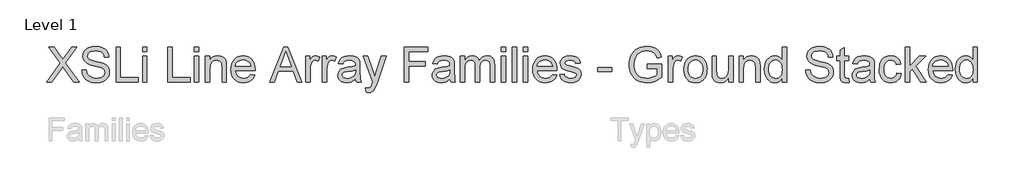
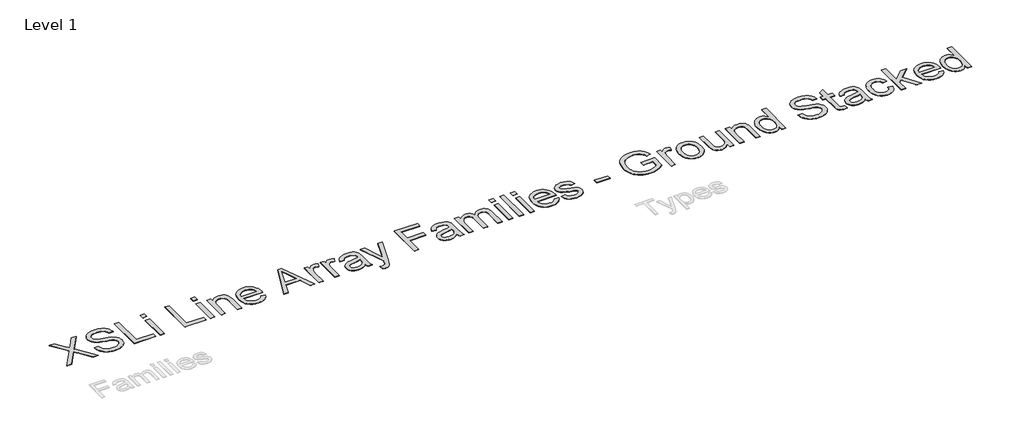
# One storey, part 39 of 52: 1 proxy.
"""IFC4 building model written with IfcOpenShell, lengths in millimetres."""

from ifc_helpers import new_model, si_unit, origin, origin_with_axes, place, context, project, spatial, polyline, outline, extrude, element, save

model = new_model("IFC4")

# Units and contexts
model_context = context("Model", 3, world=origin())
ifc_project = project(units=[si_unit("LENGTHUNIT", "METRE", prefix="MILLI")], contexts=[model_context])

# Site, building, storey
site = spatial("IfcSite", under=ifc_project)
building = spatial("IfcBuilding", under=site)
storey = spatial("IfcBuildingStorey", under=building, Name="Level 1", Elevation=0.0)

# Proxy
placement = place(None, origin())
element("IfcBuildingElementProxy", 1, Name="600mm Arial", ObjectType="600mm Arial", at=placement, inside=storey, context=model_context, shape_type="SweptSolid", body=[
    extrude(outline(polyline([(5900.4306241, -38567.5695164), (6132.7848923, -38239.1244711), (5938.1017404, -37964.8316555), (6028.4535584, -37964.8316555), (6138.082393, -38119.1949407), (6164.2388029, -38158.3007968), (6175.0177453, -38179.3804351), (6218.280668, -38118.1648711), (6326.7322801, -37964.8316555), (6418.4084733, -37964.8316555), (6223.7253215, -38240.0073879), (6456.0795896, -38567.5695164), (6365.7277716, -38567.5695164), (6210.923028, -38349.1947641), (6178.6965653, -38303.8717023), (6143.2327409, -38353.609348), (5992.1068173, -38567.5695164), (5900.4306241, -38567.5695164)])), origin_with_axes(), (0.0, 0.0, 1.0), 5.0),
    extrude(outline(polyline([(6503.168485, -38360.3783767), (6578.5107176, -38360.3783767), (6587.1559445, -38402.1881655), (6602.7909293, -38435.7941858), (6627.1815056, -38462.4656304), (6662.0935069, -38483.4716923), (6704.7678184, -38497.1017203), (6752.4453249, -38501.6450629), (6794.4206606, -38498.2053662), (6831.1720719, -38487.8862763), (6860.9521194, -38471.5523157), (6882.0133636, -38450.0680072), (6894.5397456, -38425.4015194), (6898.7152062, -38399.521021), (6895.5882093, -38374.3027103), (6886.2072184, -38352.505702), (6867.150931, -38333.9092672), (6834.9980447, -38318.2926765), (6725.2956337, -38289.5243045), (6653.2827331, -38270.4864112), (6607.2055133, -38252.368223), (6569.6999438, -38227.0211535), (6543.1204697, -38196.3030069), (6527.2831498, -38160.8759708), (6522.0040432, -38121.4022327), (6523.6365195, -38098.9660295), (6528.5339486, -38077.2747874), (6536.6963304, -38056.3285063), (6548.1236648, -38036.1271862), (6562.6871933, -38017.4939631), (6580.2581571, -38001.2519731), (6600.8365562, -37987.4012159), (6624.4223906, -37975.9416918), (6677.4341861, -37960.5458303), (6736.1113644, -37955.4138765), (6799.6813731, -37960.7849536), (6855.3051308, -37976.898185), (6879.6405248, -37988.9003351), (6900.9960746, -38003.4224768), (6919.3717803, -38020.4646103), (6934.7676418, -38040.0267353), (6947.0640974, -38061.538635), (6956.1415857, -38084.4300922), (6962.0001065, -38108.7011068), (6964.6396598, -38134.3516789), (6889.2974272, -38134.3516789), (6884.2574438, -38110.3105905), (6875.4650641, -38089.3964991), (6862.9202881, -38071.6094046), (6846.6231157, -38056.9493071), (6826.2700443, -38045.489783), (6801.5575713, -38037.3044086), (6772.4856966, -38032.3931839), (6739.0544203, -38030.7561091), (6704.5562862, -38032.3747898), (6675.0797414, -38037.2308322), (6650.6247857, -38045.3242361), (6631.1914193, -38056.6550015), (6616.384169, -38070.2758324), (6605.8075617, -38085.2394326), (6599.4615973, -38101.545802), (6597.3462758, -38119.1949407), (6598.8453949, -38134.3792701), (6603.3427523, -38148.1472537), (6610.838348, -38160.4988917), (6621.3321819, -38171.434184), (6637.8500835, -38181.7900622), (6663.8593405, -38192.2563049), (6744.3519211, -38213.5198843), (6827.4196756, -38233.7166058), (6877.6723561, -38251.3381534), (6920.622579, -38278.6717856), (6937.2278526, -38294.7390318), (6950.5865676, -38312.4065646), (6960.8550737, -38331.5824136), (6968.189721, -38352.1746083), (6974.0574388, -38397.6080347), (6972.3697802, -38421.175475), (6967.3068042, -38444.0531365), (6958.868511, -38466.2410194), (6947.0549004, -38487.7391235), (6932.0729061, -38507.7151158), (6914.1294618, -38525.3366634), (6893.2245675, -38540.6037662), (6869.358223, -38553.5164242), (6843.2248058, -38563.7849304), (6815.518693, -38571.1195777), (6755.3883809, -38576.9872955), (6716.8481434, -38575.4054029), (6681.5728586, -38570.6597252), (6649.5625265, -38562.7502623), (6620.8171471, -38551.6770142), (6595.1619764, -38537.4215869), (6572.4222706, -38519.9655863), (6552.5980296, -38499.3090122), (6535.6892534, -38475.4518648), (6522.0684225, -38449.1666963), (6512.1080175, -38421.2260587), (6505.8080383, -38391.6299522), (6503.168485, -38360.3783767)])), origin_with_axes(), (0.0, 0.0, 1.0), 5.0),
    extrude(outline(polyline([(7087.0707878, -38567.5695164), (7087.0707878, -37964.8316555), (7162.4130204, -37964.8316555), (7162.4130204, -38492.2272838), (7463.7819508, -38492.2272838), (7463.7819508, -38567.5695164), (7087.0707878, -38567.5695164)])), origin_with_axes(), (0.0, 0.0, 1.0), 5.0),
    extrude(outline(polyline([(7539.1241834, -38567.5695164), (7539.1241834, -38124.9338998), (7614.466416, -38124.9338998), (7614.466416, -38567.5695164), (7539.1241834, -38567.5695164)])), origin_with_axes(), (0.0, 0.0, 1.0), 5.0),
    extrude(outline(polyline([(7539.1241834, -38040.1738881), (7539.1241834, -37964.8316555), (7614.466416, -37964.8316555), (7614.466416, -38040.1738881), (7539.1241834, -38040.1738881)])), origin_with_axes(), (0.0, 0.0, 1.0), 5.0),
    extrude(outline(polyline([(7972.342021, -38567.5695164), (7972.342021, -37964.8316555), (8047.6842536, -37964.8316555), (8047.6842536, -38492.2272838), (8349.053184, -38492.2272838), (8349.053184, -38567.5695164), (7972.342021, -38567.5695164)])), origin_with_axes(), (0.0, 0.0, 1.0), 5.0),
    extrude(outline(polyline([(8424.3954166, -38567.5695164), (8424.3954166, -38124.9338998), (8499.7376492, -38124.9338998), (8499.7376492, -38567.5695164), (8424.3954166, -38567.5695164)])), origin_with_axes(), (0.0, 0.0, 1.0), 5.0),
    extrude(outline(polyline([(8424.3954166, -38040.1738881), (8424.3954166, -37964.8316555), (8499.7376492, -37964.8316555), (8499.7376492, -38040.1738881), (8424.3954166, -38040.1738881)])), origin_with_axes(), (0.0, 0.0, 1.0), 5.0),
    extrude(outline(polyline([(8612.7509982, -38567.5695164), (8612.7509982, -38124.9338998), (8688.0932308, -38124.9338998), (8688.0932308, -38186.738075), (8714.2680347, -38155.57847), (8745.7035512, -38133.3216093), (8782.3997802, -38119.9674929), (8824.3567218, -38115.5161208), (8861.4944092, -38119.1029702), (8895.5050997, -38129.8635186), (8923.8688015, -38146.4549965), (8944.065523, -38167.5346349), (8957.7691273, -38193.0472512), (8966.6534775, -38222.9376633), (8970.6266031, -38295.7782984), (8970.6266031, -38567.5695164), (8895.2843705, -38567.5695164), (8895.2843705, -38305.9318415), (8893.1138667, -38266.9731382), (8886.6023554, -38239.2716239), (8874.5910082, -38219.4243903), (8855.920997, -38204.0285288), (8831.9902732, -38194.1508972), (8804.1967884, -38190.8583534), (8781.3191269, -38192.7069604), (8760.0693431, -38198.2527815), (8740.4474372, -38207.4958166), (8722.4534091, -38220.4360658), (8707.4208311, -38238.545057), (8696.6832754, -38263.2943182), (8690.2407419, -38294.6838495), (8688.0932308, -38332.7136507), (8688.0932308, -38567.5695164), (8612.7509982, -38567.5695164)])), origin_with_axes(), (0.0, 0.0, 1.0), 5.0),
    extrude(outline(polyline([(9384.1259656, -38435.7206094), (9457.9966703, -38445.1383884), (9446.6705033, -38474.7252979), (9431.3804079, -38500.7989343), (9412.126384, -38523.3592977), (9388.9084316, -38542.406388), (9361.965674, -38557.535535), (9331.5372344, -38568.3420686), (9297.623113, -38574.8259888), (9260.2233097, -38576.9872955), (9213.4747051, -38573.2578918), (9171.8212662, -38562.0696806), (9135.262993, -38543.422662), (9103.7998853, -38517.3168359), (9078.4988011, -38484.4787693), (9060.4265981, -38445.6350291), (9049.5832763, -38400.7856154), (9045.9688357, -38349.9305281), (9049.6200645, -38297.3509939), (9060.5737509, -38251.0070596), (9078.8298949, -38210.8987251), (9104.3884965, -38177.0259903), (9135.7688307, -38150.1154224), (9171.4901724, -38130.8935882), (9211.5525217, -38119.3604876), (9255.9558785, -38115.5161208), (9298.9290941, -38119.3512906), (9337.7912284, -38130.8568), (9372.5422813, -38150.032649), (9403.182253, -38176.8788375), (9428.1936301, -38210.6779959), (9446.0588995, -38250.712754), (9456.7780612, -38296.9831119), (9460.351115, -38349.4890697), (9459.9096567, -38369.7961558), (9121.3110683, -38369.7961558), (9125.6750685, -38399.8613119), (9134.352485, -38426.1924657), (9147.343318, -38448.7896172), (9164.6475673, -38467.6527665), (9185.3087399, -38482.5243962), (9208.3703424, -38493.1469888), (9233.832375, -38499.5205444), (9261.6948376, -38501.6450629), (9301.7939751, -38497.7087255), (9335.5655423, -38485.8997135), (9363.0095391, -38465.4822628), (9384.1259656, -38435.7206094)]), holes=[polyline([(9121.3110683, -38294.4539232), (9385.0088824, -38294.4539232), (9374.8185512, -38254.6490913), (9366.0537626, -38238.9957124), (9354.8425588, -38226.1750249), (9334.2963494, -38210.7239811), (9310.9174486, -38199.6875213), (9284.7058564, -38193.0656453), (9255.6615729, -38190.8583534), (9229.1694708, -38192.6195884), (9204.8754635, -38197.9032936), (9182.7795512, -38206.7094688), (9162.8817337, -38219.0381142), (9146.1844897, -38234.3190126), (9133.6902974, -38251.9819469), (9125.399157, -38272.0269171), (9121.3110683, -38294.4539232)])]), origin_with_axes(), (0.0, 0.0, 1.0), 5.0),
    extrude(outline(polyline([(9710.363719, -38567.5695164), (9950.9585438, -37964.8316555), (10015.1171638, -37964.8316555), (10255.7119886, -38567.5695164), (10176.1023249, -38567.5695164), (10107.0876626, -38379.2139349), (9858.8408922, -38379.2139349), (9789.9733827, -38567.5695164), (9710.363719, -38567.5695164)]), holes=[polyline([(9886.5056183, -38303.8717023), (10079.5700893, -38303.8717023), (10025.2707068, -38155.6888346), (9983.0378538, -38040.1738881), (9945.5138903, -38142.7393884), (9886.5056183, -38303.8717023)])]), origin_with_axes(), (0.0, 0.0, 1.0), 5.0),
    extrude(outline(polyline([(10326.7867901, -38567.5695164), (10326.7867901, -38124.9338998), (10392.7112436, -38124.9338998), (10392.7112436, -38190.416895), (10417.0650317, -38152.4514731), (10439.5058334, -38130.0842478), (10462.0202115, -38119.1581525), (10486.5947288, -38115.5161208), (10524.1186923, -38121.3286563), (10562.231267, -38138.7662628), (10537.0681385, -38206.3093972), (10510.5806349, -38194.7211143), (10484.0931312, -38190.8583534), (10461.5971472, -38194.5739615), (10441.4923962, -38205.720786), (10425.2504061, -38223.4526981), (10414.3427049, -38246.9235694), (10405.1824433, -38289.0092697), (10402.1290227, -38334.9209427), (10402.1290227, -38567.5695164), (10326.7867901, -38567.5695164)])), origin_with_axes(), (0.0, 0.0, 1.0), 5.0),
    extrude(outline(polyline([(10609.3201624, -38567.5695164), (10609.3201624, -38124.9338998), (10675.2446159, -38124.9338998), (10675.2446159, -38190.416895), (10699.598404, -38152.4514731), (10722.0392057, -38130.0842478), (10744.5535838, -38119.1581525), (10769.1281011, -38115.5161208), (10806.6520646, -38121.3286563), (10844.7646393, -38138.7662628), (10819.6015108, -38206.3093972), (10793.1140072, -38194.7211143), (10766.6265035, -38190.8583534), (10744.1305195, -38194.5739615), (10724.0257685, -38205.720786), (10707.7837784, -38223.4526981), (10696.8760772, -38246.9235694), (10687.7158156, -38289.0092697), (10684.662395, -38334.9209427), (10684.662395, -38567.5695164), (10609.3201624, -38567.5695164)])), origin_with_axes(), (0.0, 0.0, 1.0), 5.0),
    extrude(outline(polyline([(11174.386907, -38511.062842), (11138.3896537, -38541.9281414), (11101.3255427, -38562.1248629), (11062.3484453, -38573.2716874), (11020.612233, -38576.9872955), (10987.0659936, -38574.7524124), (10957.6492295, -38568.047763), (10932.3619409, -38556.8733474), (10911.2041276, -38541.2291656), (10894.4976865, -38522.1084989), (10882.5645143, -38500.5046287), (10875.404611, -38476.4175551), (10873.0179765, -38449.847278), (10876.6232201, -38418.6140966), (10887.4389507, -38390.2503948), (10904.1223992, -38365.9701831), (10925.3307962, -38346.9874721), (10950.2548014, -38332.6400743), (10978.0850743, -38322.265802), (11043.2737639, -38310.9350366), (11120.3082537, -38299.0156599), (11173.9454486, -38285.0361441), (11174.386907, -38268.2607252), (11169.1997708, -38234.6363108), (11162.7158507, -38222.1835053), (11153.6383624, -38212.6369675), (11137.9481954, -38203.1088238), (11118.8367257, -38196.3030069), (11070.3498787, -38190.8583534), (11025.4682753, -38194.481991), (10994.1247293, -38205.352904), (10972.7507854, -38225.457655), (10957.7779882, -38256.7828069), (10882.4357556, -38247.3650278), (10895.5139605, -38206.1622444), (10915.0301004, -38173.7886288), (10942.805191, -38149.0301705), (10980.6602483, -38130.672859), (11026.9581974, -38119.3053053), (11080.0619634, -38115.5161208), (11130.9952256, -38118.8638469), (11171.3702746, -38128.9070254), (11201.8125097, -38144.0085813), (11222.9473303, -38162.5314397), (11236.9636344, -38185.4320939), (11246.0503196, -38213.6670371), (11249.7291396, -38279.5914906), (11249.7291396, -38373.327823), (11253.5551123, -38504.2202369), (11259.2204951, -38536.5754583), (11268.5646977, -38567.5695164), (11193.2224651, -38567.5695164), (11181.1559357, -38541.3763184), (11174.386907, -38511.062842)]), holes=[polyline([(11174.386907, -38360.3783767), (11123.7663444, -38372.9231528), (11052.8386958, -38383.481366), (10988.0178882, -38395.6950483), (10971.1504987, -38404.0459696), (10958.660905, -38415.560676), (10950.9353831, -38429.3562508), (10948.3602091, -38444.5497772), (10953.9704096, -38466.9537907), (10970.8010108, -38485.3111023), (10998.484131, -38497.5615727), (11036.651888, -38501.6450629), (11077.1189074, -38497.1385085), (11112.8770374, -38483.6188451), (11141.8661386, -38463.6980351), (11162.0260719, -38439.9880405), (11170.9656044, -38415.560676), (11173.9454486, -38381.7155325), (11174.386907, -38360.3783767)])]), origin_with_axes(), (0.0, 0.0, 1.0), 5.0),
    extrude(outline(polyline([(11353.3247094, -38737.0895398), (11343.9069304, -38664.5432104), (11382.1666578, -38671.1650863), (11402.289803, -38669.086553), (11417.9247878, -38662.8509532), (11430.1016818, -38652.8997452), (11439.8505547, -38639.6743875), (11460.4519464, -38584.1977826), (11466.3380583, -38565.9508356), (11306.235814, -38124.9338998), (11385.698325, -38124.9338998), (11470.6054895, -38370.6790726), (11500.1832019, -38468.9771417), (11529.7609143, -38382.1569909), (11617.0225236, -38124.9338998), (11695.8964233, -38124.9338998), (11541.8274438, -38578.1645179), (11501.8018827, -38676.462587), (11481.3108555, -38707.8429212), (11458.0975017, -38729.5847471), (11431.1317514, -38742.2766759), (11399.3835352, -38746.5073189), (11377.5681329, -38744.1528741), (11353.3247094, -38737.0895398)])), origin_with_axes(), (0.0, 0.0, 1.0), 5.0),
    extrude(outline(polyline([(12003.1514657, -38567.5695164), (12003.1514657, -37964.8316555), (12408.115966, -37964.8316555), (12408.115966, -38040.1738881), (12078.4936983, -38040.1738881), (12078.4936983, -38219.1116906), (12361.0270706, -38219.1116906), (12361.0270706, -38294.4539232), (12078.4936983, -38294.4539232), (12078.4936983, -38567.5695164), (12003.1514657, -38567.5695164)])), origin_with_axes(), (0.0, 0.0, 1.0), 5.0),
    extrude(outline(polyline([(12784.8271291, -38511.062842), (12748.8298758, -38541.9281414), (12711.7657648, -38562.1248629), (12672.7886674, -38573.2716874), (12631.0524551, -38576.9872955), (12597.5062156, -38574.7524124), (12568.0894516, -38568.047763), (12542.802163, -38556.8733474), (12521.6443497, -38541.2291656), (12504.9379086, -38522.1084989), (12493.0047364, -38500.5046287), (12485.8448331, -38476.4175551), (12483.4581986, -38449.847278), (12487.0634422, -38418.6140966), (12497.8791728, -38390.2503948), (12514.5626213, -38365.9701831), (12535.7710183, -38346.9874721), (12560.6950235, -38332.6400743), (12588.5252964, -38322.265802), (12653.713986, -38310.9350366), (12730.7484758, -38299.0156599), (12784.3856707, -38285.0361441), (12784.8271291, -38268.2607252), (12779.6399929, -38234.6363108), (12773.1560728, -38222.1835053), (12764.0785845, -38212.6369675), (12748.3884174, -38203.1088238), (12729.2769478, -38196.3030069), (12680.7901008, -38190.8583534), (12635.9084974, -38194.481991), (12604.5649514, -38205.352904), (12583.1910075, -38225.457655), (12568.2182103, -38256.7828069), (12492.8759777, -38247.3650278), (12505.9541826, -38206.1622444), (12525.4703225, -38173.7886288), (12553.2454131, -38149.0301705), (12591.1004704, -38130.672859), (12637.3984195, -38119.3053053), (12690.5021855, -38115.5161208), (12741.4354477, -38118.8638469), (12781.8104967, -38128.9070254), (12812.2527318, -38144.0085813), (12833.3875524, -38162.5314397), (12847.4038564, -38185.4320939), (12856.4905417, -38213.6670371), (12860.1693617, -38279.5914906), (12860.1693617, -38373.327823), (12863.9953344, -38504.2202369), (12869.6607171, -38536.5754583), (12879.0049198, -38567.5695164), (12803.6626872, -38567.5695164), (12791.5961578, -38541.3763184), (12784.8271291, -38511.062842)]), holes=[polyline([(12784.8271291, -38360.3783767), (12734.2065665, -38372.9231528), (12663.2789179, -38383.481366), (12598.4581103, -38395.6950483), (12581.5907208, -38404.0459696), (12569.1011271, -38415.560676), (12561.3756052, -38429.3562508), (12558.8004312, -38444.5497772), (12564.4106316, -38466.9537907), (12581.2412329, -38485.3111023), (12608.9243531, -38497.5615727), (12647.0921101, -38501.6450629), (12687.5591295, -38497.1385085), (12723.3172595, -38483.6188451), (12752.3063607, -38463.6980351), (12772.466294, -38439.9880405), (12781.4058265, -38415.560676), (12784.3856707, -38381.7155325), (12784.8271291, -38360.3783767)])]), origin_with_axes(), (0.0, 0.0, 1.0), 5.0),
    extrude(outline(polyline([(12963.7649315, -38567.5695164), (12963.7649315, -38124.9338998), (13039.1071641, -38124.9338998), (13039.1071641, -38197.7745349), (13061.768695, -38164.3156674), (13090.904949, -38138.1040753), (13125.5226448, -38121.1631094), (13164.6285009, -38115.5161208), (13206.5302601, -38121.273474), (13224.3633398, -38128.4701655), (13240.1178863, -38138.5455337), (13265.2074384, -38166.1918656), (13281.6149753, -38203.0720356), (13309.0773663, -38164.7663229), (13340.4025182, -38137.4050995), (13375.590431, -38120.9883654), (13414.6411048, -38115.5161208), (13444.8028299, -38117.7923906), (13471.276538, -38124.6212001), (13494.062229, -38136.0025494), (13513.1599031, -38151.9364383), (13528.2568605, -38172.6068079), (13539.0404015, -38198.1975992), (13545.5105261, -38228.7088121), (13547.6672343, -38264.1404468), (13547.6672343, -38567.5695164), (13472.3250016, -38567.5695164), (13472.3250016, -38296.5140624), (13470.5775622, -38258.9349166), (13465.3352437, -38233.6062412), (13455.5127945, -38216.2606051), (13440.0249625, -38202.6305772), (13420.1041524, -38193.8014093), (13396.982769, -38190.8583534), (13375.6318177, -38192.7437486), (13356.1662617, -38198.3999343), (13338.5861008, -38207.8269104), (13322.8913352, -38221.024677), (13309.9832757, -38238.3795101), (13300.7632332, -38260.2776859), (13295.2312077, -38286.7192043), (13293.3871992, -38317.7040653), (13293.3871992, -38567.5695164), (13218.0449666, -38567.5695164), (13218.0449666, -38288.1263529), (13213.6855649, -38245.5256178), (13208.2363129, -38228.8053812), (13200.60736, -38215.138565), (13190.4952037, -38204.5159724), (13177.5963412, -38196.9284063), (13161.9107726, -38192.3758666), (13143.438498, -38190.8583534), (13114.4126085, -38194.9050553), (13087.6675875, -38207.0451612), (13065.5946678, -38226.9843653), (13050.5850824, -38254.4283621), (13041.9766437, -38292.5041486), (13039.1071641, -38344.3387218), (13039.1071641, -38567.5695164), (12963.7649315, -38567.5695164)])), origin_with_axes(), (0.0, 0.0, 1.0), 5.0),
    extrude(outline(polyline([(13660.6805832, -38567.5695164), (13660.6805832, -38124.9338998), (13736.0228158, -38124.9338998), (13736.0228158, -38567.5695164), (13660.6805832, -38567.5695164)])), origin_with_axes(), (0.0, 0.0, 1.0), 5.0),
    extrude(outline(polyline([(13660.6805832, -38040.1738881), (13660.6805832, -37964.8316555), (13736.0228158, -37964.8316555), (13736.0228158, -38040.1738881), (13660.6805832, -38040.1738881)])), origin_with_axes(), (0.0, 0.0, 1.0), 5.0),
    extrude(outline(polyline([(13849.0361647, -38567.5695164), (13849.0361647, -37964.8316555), (13924.3783973, -37964.8316555), (13924.3783973, -38567.5695164), (13849.0361647, -38567.5695164)])), origin_with_axes(), (0.0, 0.0, 1.0), 5.0),
    extrude(outline(polyline([(14037.3917462, -38567.5695164), (14037.3917462, -38124.9338998), (14112.7339788, -38124.9338998), (14112.7339788, -38567.5695164), (14037.3917462, -38567.5695164)])), origin_with_axes(), (0.0, 0.0, 1.0), 5.0),
    extrude(outline(polyline([(14037.3917462, -38040.1738881), (14037.3917462, -37964.8316555), (14112.7339788, -37964.8316555), (14112.7339788, -38040.1738881), (14037.3917462, -38040.1738881)])), origin_with_axes(), (0.0, 0.0, 1.0), 5.0),
    extrude(outline(polyline([(14535.6511205, -38435.7206094), (14609.5218251, -38445.1383884), (14598.1956582, -38474.7252979), (14582.9055628, -38500.7989343), (14563.6515389, -38523.3592977), (14540.4335864, -38542.406388), (14513.4908288, -38557.535535), (14483.0623893, -38568.3420686), (14449.1482679, -38574.8259888), (14411.7484645, -38576.9872955), (14364.99986, -38573.2578918), (14323.3464211, -38562.0696806), (14286.7881478, -38543.422662), (14255.3250402, -38517.3168359), (14230.023956, -38484.4787693), (14211.9517529, -38445.6350291), (14201.1084311, -38400.7856154), (14197.4939905, -38349.9305281), (14201.1452193, -38297.3509939), (14212.0989057, -38251.0070596), (14230.3550498, -38210.8987251), (14255.9136514, -38177.0259903), (14287.2939856, -38150.1154224), (14323.0153273, -38130.8935882), (14363.0776766, -38119.3604876), (14407.4810334, -38115.5161208), (14450.4542489, -38119.3512906), (14489.3163832, -38130.8568), (14524.0674362, -38150.032649), (14554.7074079, -38176.8788375), (14579.718785, -38210.6779959), (14597.5840544, -38250.712754), (14608.303216, -38296.9831119), (14611.8762699, -38349.4890697), (14611.4348115, -38369.7961558), (14272.8362232, -38369.7961558), (14277.2002233, -38399.8613119), (14285.8776399, -38426.1924657), (14298.8684728, -38448.7896172), (14316.1727222, -38467.6527665), (14336.8338947, -38482.5243962), (14359.8954973, -38493.1469888), (14385.3575299, -38499.5205444), (14413.2199925, -38501.6450629), (14453.31913, -38497.7087255), (14487.0906971, -38485.8997135), (14514.534694, -38465.4822628), (14535.6511205, -38435.7206094)]), holes=[polyline([(14272.8362232, -38294.4539232), (14536.5340373, -38294.4539232), (14526.343706, -38254.6490913), (14517.5789175, -38238.9957124), (14506.3677137, -38226.1750249), (14485.8215043, -38210.7239811), (14462.4426035, -38199.6875213), (14436.2310113, -38193.0656453), (14407.1867278, -38190.8583534), (14380.6946256, -38192.6195884), (14356.4006184, -38197.9032936), (14334.304706, -38206.7094688), (14314.4068886, -38219.0381142), (14297.7096445, -38234.3190126), (14285.2154523, -38251.9819469), (14276.9243118, -38272.0269171), (14272.8362232, -38294.4539232)])]), origin_with_axes(), (0.0, 0.0, 1.0), 5.0),
    extrude(outline(polyline([(14658.9651653, -38435.7206094), (14734.3073979, -38426.3028303), (14738.8599376, -38443.4829195), (14746.1899863, -38458.5292931), (14756.2975442, -38471.4419511), (14769.182611, -38482.2208935), (14784.8819752, -38490.7189676), (14803.4324248, -38496.7890206), (14849.0865804, -38501.6450629), (14894.188913, -38497.1936908), (14911.7184901, -38491.6294756), (14925.900341, -38483.8395743), (14944.6623227, -38464.4889814), (14949.3528182, -38453.6548566), (14950.9163167, -38442.0481797), (14949.3436211, -38431.8762425), (14944.6255345, -38422.8447395), (14925.7531882, -38408.2030361), (14897.5366392, -38398.6381042), (14848.2036636, -38386.7187276), (14779.4465187, -38366.8347058), (14734.7488563, -38349.8569517), (14706.0356666, -38331.3340932), (14685.2319397, -38306.8147582), (14672.5951932, -38277.8624452), (14668.3829444, -38246.0406526), (14671.7674587, -38216.8492163), (14681.9210018, -38189.9018602), (14697.9238686, -38166.265442), (14718.8563541, -38147.0068195), (14739.6600809, -38134.8851078), (14766.7545899, -38124.7131706), (14798.0797418, -38117.8153832), (14831.5753974, -38115.5161208), (14880.6140674, -38119.2133348), (14923.2515906, -38130.304977), (14957.5381926, -38147.7057953), (14981.5240987, -38170.330538), (14997.4166009, -38199.8530681), (15007.4229911, -38237.9472487), (14932.0807585, -38247.3650278), (14922.5710089, -38223.6550332), (14903.7538449, -38205.7943624), (14875.4453253, -38194.5923556), (14837.4615093, -38190.8583534), (14794.1985867, -38194.4268087), (14765.3566383, -38205.1321748), (14749.1330423, -38220.5832186), (14743.725177, -38238.3887071), (14745.9692571, -38249.97699), (14752.7014977, -38260.3144741), (14764.2162041, -38269.5483121), (14780.8076821, -38276.9427402), (14845.702066, -38292.9823952), (14956.2873938, -38328.4462196), (14985.4972242, -38345.4055795), (15007.6437203, -38368.6189334), (15021.604842, -38398.1598576), (15026.2585493, -38434.1019286), (15020.7955016, -38471.2580101), (15004.4063588, -38506.2067996), (14977.71652, -38536.2075763), (14941.3513848, -38558.5196193), (14897.4262746, -38572.3703765), (14848.0565108, -38576.9872955), (14807.5067179, -38574.7616094), (14772.0888788, -38568.0845512), (14741.8029936, -38556.9561209), (14716.6490621, -38541.3763184), (14696.1028527, -38521.4187201), (14679.6401334, -38497.1569026), (14667.2609043, -38468.5908656), (14658.9651653, -38435.7206094)])), origin_with_axes(), (0.0, 0.0, 1.0), 5.0),
    extrude(outline(polyline([(15308.7919216, -38388.631714), (15308.7919216, -38313.2894814), (15544.2363985, -38313.2894814), (15544.2363985, -38388.631714), (15308.7919216, -38388.631714)])), origin_with_axes(), (0.0, 0.0, 1.0), 5.0),
    extrude(outline(polyline([(16156.3920385, -38332.1250395), (16156.3920385, -38256.7828069), (16401.2542944, -38256.7828069), (16401.2542944, -38482.0737407), (16341.7493817, -38523.4604652), (16280.3682708, -38553.1485422), (16217.2581146, -38571.0276072), (16152.5660657, -38576.9872955), (16109.2893475, -38574.6190552), (16068.0451773, -38567.5143341), (16028.8335552, -38555.6731324), (15991.654481, -38539.09545), (15957.7081699, -38518.0296073), (15928.1948368, -38492.7239245), (15903.1144818, -38463.1784018), (15882.4671048, -38429.393039), (15866.3400779, -38392.4484897), (15854.8207729, -38353.425407), (15847.9091899, -38312.3237911), (15845.6053289, -38269.1436419), (15847.8999929, -38225.9588942), (15854.7839847, -38184.2548716), (15866.2573044, -38144.0315739), (15882.319952, -38105.2890013), (15902.686819, -38069.7286079), (15927.0727968, -38039.0518481), (15955.4778853, -38013.2587217), (15987.9020847, -37992.3492288), (16023.6418205, -37976.1900121), (16061.9935185, -37964.6477145), (16102.9571787, -37957.722336), (16146.532801, -37955.4138765), (16208.5944936, -37960.7665595), (16264.4021922, -37976.8246086), (16289.3215989, -37988.5784383), (16311.3991171, -38002.4291954), (16330.6347469, -38018.3768799), (16347.0284884, -38036.4214918), (16373.3872333, -38080.4385725), (16392.5722794, -38136.1175125), (16323.1161587, -38155.6888346), (16307.6099326, -38115.9759732), (16288.7559803, -38086.0119847), (16263.813581, -38063.4240302), (16230.0420139, -38045.8392709), (16189.7773295, -38034.5268995), (16145.3555786, -38030.7561091), (16093.3554586, -38034.8212051), (16048.8969195, -38047.0164933), (16012.1455081, -38065.8152632), (15983.2667715, -38089.6908047), (15961.1018813, -38117.410713), (15944.4920092, -38147.7425835), (15926.8336735, -38204.61714), (15920.9475615, -38266.0534332), (15922.7179936, -38303.6739657), (15928.0292899, -38338.1031219), (15936.8814505, -38369.3409019), (15949.2744752, -38397.3873055), (15965.0474157, -38422.1365667), (15984.0393237, -38443.4829195), (16006.2501992, -38461.4263638), (16031.6800421, -38475.9668996), (16059.1378345, -38487.2010961), (16087.4325585, -38495.2255221), (16116.564214, -38500.0401777), (16146.532801, -38501.6450629), (16198.716862, -38496.8074147), (16249.613336, -38482.2944699), (16293.8143578, -38462.3000835), (16325.9120618, -38441.0181101), (16325.9120618, -38332.1250395), (16156.3920385, -38332.1250395)])), origin_with_axes(), (0.0, 0.0, 1.0), 5.0),
    extrude(outline(polyline([(16514.2676434, -38567.5695164), (16514.2676434, -38124.9338998), (16580.1920969, -38124.9338998), (16580.1920969, -38190.416895), (16604.545885, -38152.4514731), (16626.9866867, -38130.0842478), (16649.5010648, -38119.1581525), (16674.0755821, -38115.5161208), (16711.5995456, -38121.3286563), (16749.7121203, -38138.7662628), (16724.5489918, -38206.3093972), (16698.0614882, -38194.7211143), (16671.5739845, -38190.8583534), (16649.0780005, -38194.5739615), (16628.9732495, -38205.720786), (16612.7312594, -38223.4526981), (16601.8235582, -38246.9235694), (16592.6632965, -38289.0092697), (16589.609876, -38334.9209427), (16589.609876, -38567.5695164), (16514.2676434, -38567.5695164)])), origin_with_axes(), (0.0, 0.0, 1.0), 5.0),
    extrude(outline(polyline([(16777.9654575, -38346.2517081), (16782.0397506, -38288.9264962), (16794.2626299, -38239.5291413), (16814.6340954, -38198.0596434), (16843.1541471, -38164.5180025), (16871.8673368, -38143.0796792), (16903.5603707, -38127.7665912), (16938.2332487, -38118.5787384), (16975.8859709, -38115.5161208), (17017.4520378, -38119.2455245), (17055.0357822, -38130.4337357), (17088.6372039, -38149.0807543), (17118.256303, -38175.1865804), (17142.4307487, -38207.8682971), (17159.6982098, -38246.2429877), (17170.0586865, -38290.3106522), (17173.5121787, -38340.0712906), (17171.9854684, -38380.4003543), (17167.4053376, -38416.1860754), (17159.7717862, -38447.4284539), (17149.0848142, -38474.1274897), (17135.4777789, -38497.1890922), (17119.0840375, -38517.519171), (17099.90359, -38535.1177259), (17077.9364364, -38549.9847571), (17054.0379023, -38561.7983676), (17029.0633133, -38570.2366609), (17003.0126695, -38575.2996369), (16975.8859709, -38576.9872955), (16933.7128987, -38573.2716874), (16895.7796665, -38562.1248629), (16862.0862742, -38543.5468221), (16832.632722, -38517.5375651), (16808.7157938, -38484.5385501), (16791.6322736, -38444.9912356), (16781.3821615, -38398.8956216), (16777.9654575, -38346.2517081)]), holes=[polyline([(16853.3076901, -38346.1045553), (16855.4873909, -38382.649033), (16862.0264934, -38414.2914831), (16872.9249975, -38441.0319057), (16888.1829033, -38462.8703006), (16906.7425499, -38479.8342591), (16927.5462767, -38491.9513723), (16950.5940837, -38499.2216402), (16975.8859709, -38501.6450629), (17001.0490994, -38499.2078447), (17024.0049359, -38491.89619), (17044.7534804, -38479.7100989), (17063.294733, -38462.6495714), (17078.5526387, -38440.5950458), (17089.4511428, -38413.4269604), (17095.9902453, -38381.1453154), (17098.1699461, -38343.7501106), (17095.9764497, -38308.3644612), (17089.3959605, -38277.5497455), (17078.4284785, -38251.3059637), (17063.0740038, -38229.6331157), (17044.4637733, -38212.6691572), (17023.7290244, -38200.5520439), (17000.8697569, -38193.281776), (16975.8859709, -38190.8583534), (16950.5940837, -38193.272579), (16927.5462767, -38200.5152557), (16906.7425499, -38212.5863837), (16888.1829033, -38229.4859629), (16872.9249975, -38251.2599784), (16862.0264934, -38277.9544157), (16855.4873909, -38309.5692747), (16853.3076901, -38346.1045553)])]), origin_with_axes(), (0.0, 0.0, 1.0), 5.0),
    extrude(outline(polyline([(17540.8055627, -38567.5695164), (17540.8055627, -38491.4915198), (17513.5455069, -38528.8959217), (17481.7972907, -38555.6133516), (17445.5609142, -38571.6438095), (17404.8363773, -38576.9872955), (17368.1401483, -38573.2348992), (17333.982305, -38561.9777101), (17305.3242976, -38545.0551383), (17285.1275761, -38524.3065938), (17271.5343363, -38499.1066771), (17262.6867744, -38468.8299889), (17258.2721904, -38398.785257), (17258.2721904, -38124.9338998), (17333.614423, -38124.9338998), (17333.614423, -38363.3214327), (17334.7548572, -38410.9989393), (17338.1761598, -38440.1351933), (17349.1574373, -38465.7581743), (17367.9746014, -38485.2375259), (17393.3768531, -38497.5431786), (17424.1133938, -38501.6450629), (17456.6157681, -38497.4512081), (17487.021215, -38484.8696439), (17512.092373, -38465.0591985), (17528.5918805, -38439.1787001), (17537.7521421, -38403.7332699), (17540.8055627, -38355.2280288), (17540.8055627, -38124.9338998), (17616.1477953, -38124.9338998), (17616.1477953, -38567.5695164), (17540.8055627, -38567.5695164)])), origin_with_axes(), (0.0, 0.0, 1.0), 5.0),
    extrude(outline(polyline([(17719.7433652, -38567.5695164), (17719.7433652, -38124.9338998), (17795.0855978, -38124.9338998), (17795.0855978, -38186.738075), (17821.2604017, -38155.57847), (17852.6959182, -38133.3216093), (17889.3921472, -38119.9674929), (17931.3490888, -38115.5161208), (17968.4867762, -38119.1029702), (18002.4974667, -38129.8635186), (18030.8611685, -38146.4549965), (18051.05789, -38167.5346349), (18064.7614943, -38193.0472512), (18073.6458445, -38222.9376633), (18077.6189701, -38295.7782984), (18077.6189701, -38567.5695164), (18002.2767375, -38567.5695164), (18002.2767375, -38305.9318415), (18000.1062337, -38266.9731382), (17993.5947224, -38239.2716239), (17981.5833752, -38219.4243903), (17962.913364, -38204.0285288), (17938.9826402, -38194.1508972), (17911.1891554, -38190.8583534), (17888.3114939, -38192.7069604), (17867.0617101, -38198.2527815), (17847.4398042, -38207.4958166), (17829.4457761, -38220.4360658), (17814.4131981, -38238.545057), (17803.6756424, -38263.2943182), (17797.2331089, -38294.6838495), (17795.0855978, -38332.7136507), (17795.0855978, -38567.5695164), (17719.7433652, -38567.5695164)])), origin_with_axes(), (0.0, 0.0, 1.0), 5.0),
    extrude(outline(polyline([(18454.3301331, -38567.5695164), (18454.3301331, -38496.494715), (18431.7881639, -38531.7102189), (18404.4821228, -38556.8641504), (18372.4120099, -38571.9565092), (18335.5778251, -38576.9872955), (18310.7090022, -38575.1662796), (18286.8702489, -38569.703232), (18264.0615652, -38560.5981526), (18242.2829511, -38547.8510415), (18222.2149883, -38531.8435762), (18204.5382584, -38512.9574342), (18189.2527615, -38491.1926157), (18176.3584976, -38466.5491206), (18166.1221811, -38439.4959983), (18158.8105264, -38410.5022986), (18152.9612027, -38346.6931665), (18158.3506739, -38283.6749807), (18174.5190876, -38226.7636361), (18186.6407993, -38201.4073696), (18201.4480496, -38179.1964941), (18218.9408385, -38160.1310097), (18239.1191659, -38144.2109164), (18261.2702606, -38131.6569433), (18284.6813511, -38122.6898197), (18309.3524374, -38117.3095455), (18335.2835195, -38115.5161208), (18372.1452954, -38120.6480746), (18404.7396402, -38136.0439361), (18432.367578, -38159.6435661), (18454.3301331, -38189.3868254), (18454.3301331, -37964.8316555), (18529.6723657, -37964.8316555), (18529.6723657, -38567.5695164), (18454.3301331, -38567.5695164)]), holes=[polyline([(18228.3034353, -38346.3988609), (18230.4279538, -38382.9341416), (18236.8015094, -38414.5490005), (18247.424102, -38441.2434378), (18262.2957316, -38463.0174534), (18280.055235, -38479.9170326), (18299.3414486, -38491.9881605), (18320.1543724, -38499.2308373), (18342.4940066, -38501.6450629), (18364.9394068, -38499.3412019), (18385.6281705, -38492.4296189), (18404.5602977, -38480.9103139), (18421.7357884, -38464.783287), (18435.9958142, -38443.9197793), (18446.1815469, -38418.1910323), (18452.2929866, -38387.5970459), (18454.3301331, -38352.1378201), (18452.2561984, -38313.2618902), (18446.0343941, -38279.9225844), (18435.6647204, -38252.1199026), (18421.1471772, -38229.8538449), (18403.5946075, -38212.7933173), (18384.1198543, -38200.6072262), (18362.7229178, -38193.2955716), (18339.4037978, -38190.8583534), (18316.6227053, -38193.1990026), (18295.8097814, -38200.2209501), (18276.9650262, -38211.9241961), (18260.0884397, -38228.3087405), (18246.1825003, -38249.7332682), (18236.2496864, -38276.5564641), (18230.2899981, -38308.7783284), (18228.3034353, -38346.3988609)])]), origin_with_axes(), (0.0, 0.0, 1.0), 5.0),
    extrude(outline(polyline([(18859.2946334, -38360.3783767), (18934.636866, -38360.3783767), (18943.2820929, -38402.1881655), (18958.9170777, -38435.7941858), (18983.307654, -38462.4656304), (19018.2196553, -38483.4716923), (19060.8939668, -38497.1017203), (19108.5714734, -38501.6450629), (19150.546809, -38498.2053662), (19187.2982203, -38487.8862763), (19217.0782678, -38471.5523157), (19238.1395121, -38450.0680072), (19250.665894, -38425.4015194), (19254.8413546, -38399.521021), (19251.7143577, -38374.3027103), (19242.3333668, -38352.505702), (19223.2770794, -38333.9092672), (19191.1241931, -38318.2926765), (19081.4217821, -38289.5243045), (19009.4088816, -38270.4864112), (18963.3316617, -38252.368223), (18925.8260922, -38227.0211535), (18899.2466181, -38196.3030069), (18883.4092982, -38160.8759708), (18878.1301916, -38121.4022327), (18879.7626679, -38098.9660295), (18884.660097, -38077.2747874), (18892.8224788, -38056.3285063), (18904.2498132, -38036.1271862), (18918.8133417, -38017.4939631), (18936.3843055, -38001.2519731), (18956.9627046, -37987.4012159), (18980.548539, -37975.9416918), (19033.5603345, -37960.5458303), (19092.2375128, -37955.4138765), (19155.8075215, -37960.7849536), (19211.4312792, -37976.898185), (19235.7666732, -37988.9003351), (19257.122223, -38003.4224768), (19275.4979287, -38020.4646103), (19290.8937902, -38040.0267353), (19303.1902458, -38061.538635), (19312.2677341, -38084.4300922), (19318.1262549, -38108.7011068), (19320.7658082, -38134.3516789), (19245.4235756, -38134.3516789), (19240.3835922, -38110.3105905), (19231.5912125, -38089.3964991), (19219.0464365, -38071.6094046), (19202.7492641, -38056.9493071), (19182.3961927, -38045.489783), (19157.6837197, -38037.3044086), (19128.611845, -38032.3931839), (19095.1805687, -38030.7561091), (19060.6824346, -38032.3747898), (19031.2058898, -38037.2308322), (19006.7509341, -38045.3242361), (18987.3175677, -38056.6550015), (18972.5103174, -38070.2758324), (18961.9337101, -38085.2394326), (18955.5877457, -38101.545802), (18953.4724242, -38119.1949407), (18954.9715433, -38134.3792701), (18959.4689007, -38148.1472537), (18966.9644964, -38160.4988917), (18977.4583303, -38171.434184), (18993.9762319, -38181.7900622), (19019.9854889, -38192.2563049), (19100.4780695, -38213.5198843), (19183.545824, -38233.7166058), (19233.7985045, -38251.3381534), (19276.7487274, -38278.6717856), (19293.354001, -38294.7390318), (19306.712716, -38312.4065646), (19316.9812221, -38331.5824136), (19324.3158694, -38352.1746083), (19330.1835872, -38397.6080347), (19328.4959286, -38421.175475), (19323.4329526, -38444.0531365), (19314.9946594, -38466.2410194), (19303.1810488, -38487.7391235), (19288.1990545, -38507.7151158), (19270.2556102, -38525.3366634), (19249.3507159, -38540.6037662), (19225.4843714, -38553.5164242), (19199.3509542, -38563.7849304), (19171.6448414, -38571.1195777), (19111.5145293, -38576.9872955), (19072.9742918, -38575.4054029), (19037.699007, -38570.6597252), (19005.6886749, -38562.7502623), (18976.9432955, -38551.6770142), (18951.2881248, -38537.4215869), (18928.548419, -38519.9655863), (18908.724178, -38499.3090122), (18891.8154018, -38475.4518648), (18878.1945709, -38449.1666963), (18868.2341659, -38421.2260587), (18861.9341867, -38391.6299522), (18859.2946334, -38360.3783767)])), origin_with_axes(), (0.0, 0.0, 1.0), 5.0),
    extrude(outline(polyline([(19593.8814014, -38504.7352717), (19603.2991805, -38569.7768084), (19546.9396588, -38576.9872955), (19510.7768587, -38573.8602985), (19483.8111084, -38564.4793077), (19464.7548211, -38550.0215453), (19452.3204096, -38531.6642337), (19445.4778045, -38500.1367467), (19443.1969362, -38446.168458), (19443.1969362, -38200.2761324), (19386.6902617, -38200.2761324), (19386.6902617, -38124.9338998), (19443.1969362, -38124.9338998), (19443.1969362, -38017.3652044), (19518.5391688, -37973.0722122), (19518.5391688, -38124.9338998), (19593.8814014, -38124.9338998), (19593.8814014, -38200.2761324), (19518.5391688, -38200.2761324), (19518.5391688, -38443.961166), (19522.5122943, -38482.8095047), (19535.3881642, -38496.5682914), (19546.2590771, -38500.37587), (19561.0663274, -38501.6450629), (19593.8814014, -38504.7352717)])), origin_with_axes(), (0.0, 0.0, 1.0), 5.0),
    extrude(outline(polyline([(19951.7570063, -38511.062842), (19915.7597531, -38541.9281414), (19878.6956421, -38562.1248629), (19839.7185447, -38573.2716874), (19797.9823323, -38576.9872955), (19764.4360929, -38574.7524124), (19735.0193288, -38568.047763), (19709.7320402, -38556.8733474), (19688.5742269, -38541.2291656), (19671.8677858, -38522.1084989), (19659.9346136, -38500.5046287), (19652.7747103, -38476.4175551), (19650.3880758, -38449.847278), (19653.9933194, -38418.6140966), (19664.8090501, -38390.2503948), (19681.4924985, -38365.9701831), (19702.7008956, -38346.9874721), (19727.6249007, -38332.6400743), (19755.4551737, -38322.265802), (19820.6438632, -38310.9350366), (19897.678353, -38299.0156599), (19951.3155479, -38285.0361441), (19951.7570063, -38268.2607252), (19946.5698702, -38234.6363108), (19940.08595, -38222.1835053), (19931.0084618, -38212.6369675), (19915.3182947, -38203.1088238), (19896.206825, -38196.3030069), (19847.7199781, -38190.8583534), (19802.8383746, -38194.481991), (19771.4948287, -38205.352904), (19750.1208847, -38225.457655), (19735.1480875, -38256.7828069), (19659.8058549, -38247.3650278), (19672.8840599, -38206.1622444), (19692.4001997, -38173.7886288), (19720.1752903, -38149.0301705), (19758.0303476, -38130.672859), (19804.3282967, -38119.3053053), (19857.4320627, -38115.5161208), (19908.365325, -38118.8638469), (19948.7403739, -38128.9070254), (19979.182609, -38144.0085813), (20000.3174297, -38162.5314397), (20014.3337337, -38185.4320939), (20023.420419, -38213.6670371), (20027.0992389, -38279.5914906), (20027.0992389, -38373.327823), (20030.9252117, -38504.2202369), (20036.5905944, -38536.5754583), (20045.9347971, -38567.5695164), (19970.5925644, -38567.5695164), (19958.526035, -38541.3763184), (19951.7570063, -38511.062842)]), holes=[polyline([(19951.7570063, -38360.3783767), (19901.1364438, -38372.9231528), (19830.2087951, -38383.481366), (19765.3879875, -38395.6950483), (19748.5205981, -38404.0459696), (19736.0310043, -38415.560676), (19728.3054824, -38429.3562508), (19725.7303085, -38444.5497772), (19731.3405089, -38466.9537907), (19748.1711102, -38485.3111023), (19775.8542303, -38497.5615727), (19814.0219873, -38501.6450629), (19854.4890068, -38497.1385085), (19890.2471367, -38483.6188451), (19919.2362379, -38463.6980351), (19939.3961713, -38439.9880405), (19948.3357037, -38415.560676), (19951.3155479, -38381.7155325), (19951.7570063, -38360.3783767)])]), origin_with_axes(), (0.0, 0.0, 1.0), 5.0),
    extrude(outline(polyline([(20413.228181, -38407.4672721), (20488.5704137, -38416.8850512), (20480.3758422, -38452.4362475), (20467.5643517, -38483.8947566), (20450.1359422, -38511.2605785), (20428.0906137, -38534.5337133), (20402.3572681, -38553.1071555), (20373.8648076, -38566.3738999), (20342.6132321, -38574.3339466), (20308.6025416, -38576.9872955), (20266.3466959, -38573.2854829), (20228.459449, -38562.1800452), (20194.9408007, -38543.6709823), (20165.7907511, -38517.7582943), (20142.1957196, -38484.9294247), (20125.3421257, -38445.6718173), (20115.2299694, -38399.985472), (20111.8592506, -38347.8703889), (20117.6166038, -38280.8238953), (20124.8132954, -38250.6529732), (20134.8886635, -38222.7169341), (20147.9116861, -38197.5767983), (20163.9513411, -38175.7935857), (20183.0076285, -38157.3672962), (20205.0805482, -38142.29793), (20229.1722203, -38130.5808885), (20254.284765, -38122.2115731), (20280.4181823, -38117.1899838), (20307.572472, -38115.5161208), (20340.9991498, -38117.8153832), (20371.2344513, -38124.7131706), (20398.2783765, -38136.209483), (20422.1309253, -38152.3043203), (20442.3874277, -38172.6298005), (20458.6432133, -38196.8180417), (20470.8982823, -38224.8690438), (20479.1526346, -38256.7828069), (20403.810402, -38266.200586), (20390.1435858, -38233.3303297), (20368.8616124, -38209.7674879), (20341.1417041, -38195.585637), (20308.1610832, -38190.8583534), (20282.5610949, -38193.185207), (20259.4719012, -38200.1657678), (20238.8935021, -38211.8000359), (20220.8258976, -38228.0880113), (20206.1152163, -38249.4067729), (20195.6075868, -38276.1333998), (20189.3030091, -38308.2678921), (20187.2014832, -38345.8102497), (20189.2570239, -38383.9182259), (20195.4236458, -38416.4251987), (20205.701349, -38443.3311681), (20220.0901336, -38464.6361342), (20237.7990531, -38480.8275405), (20258.0371614, -38492.3928307), (20280.8044584, -38499.3320048), (20306.100944, -38501.6450629), (20345.1148296, -38495.8693156), (20361.9868176, -38488.6496314), (20377.1021691, -38478.5420736), (20390.0378198, -38465.4362775), (20400.3707053, -38449.2218786), (20408.1008257, -38429.8988768), (20413.228181, -38407.4672721)])), origin_with_axes(), (0.0, 0.0, 1.0), 5.0),
    extrude(outline(polyline([(20554.4948672, -38567.5695164), (20554.4948672, -37964.8316555), (20629.8370998, -37964.8316555), (20629.8370998, -38288.7149641), (20798.768512, -38124.9338998), (20902.952693, -38124.9338998), (20731.9611417, -38290.7751033), (20912.3704721, -38567.5695164), (20824.3730989, -38567.5695164), (20677.9560648, -38343.1614994), (20629.8370998, -38389.8089364), (20629.8370998, -38567.5695164), (20554.4948672, -38567.5695164)])), origin_with_axes(), (0.0, 0.0, 1.0), 5.0),
    extrude(outline(polyline([(21288.1987184, -38435.7206094), (21362.069423, -38445.1383884), (21350.7432561, -38474.7252979), (21335.4531607, -38500.7989343), (21316.1991367, -38523.3592977), (21292.9811843, -38542.406388), (21266.0384267, -38557.535535), (21235.6099872, -38568.3420686), (21201.6958657, -38574.8259888), (21164.2960624, -38576.9872955), (21117.5474579, -38573.2578918), (21075.894019, -38562.0696806), (21039.3357457, -38543.422662), (21007.872638, -38517.3168359), (20982.5715538, -38484.4787693), (20964.4993508, -38445.6350291), (20953.656029, -38400.7856154), (20950.0415884, -38349.9305281), (20953.6928172, -38297.3509939), (20964.6465036, -38251.0070596), (20982.9026476, -38210.8987251), (21008.4612492, -38177.0259903), (21039.8415834, -38150.1154224), (21075.5629252, -38130.8935882), (21115.6252744, -38119.3604876), (21160.0286313, -38115.5161208), (21203.0018468, -38119.3512906), (21241.8639811, -38130.8568), (21276.6150341, -38150.032649), (21307.2550057, -38176.8788375), (21332.2663829, -38210.6779959), (21350.1316523, -38250.712754), (21360.8508139, -38296.9831119), (21364.4238678, -38349.4890697), (21363.9824094, -38369.7961558), (21025.383821, -38369.7961558), (21029.7478212, -38399.8613119), (21038.4252377, -38426.1924657), (21051.4160707, -38448.7896172), (21068.7203201, -38467.6527665), (21089.3814926, -38482.5243962), (21112.4430952, -38493.1469888), (21137.9051278, -38499.5205444), (21165.7675904, -38501.6450629), (21205.8667279, -38497.7087255), (21239.638295, -38485.8997135), (21267.0822919, -38465.4822628), (21288.1987184, -38435.7206094)]), holes=[polyline([(21025.383821, -38294.4539232), (21289.0816352, -38294.4539232), (21278.8913039, -38254.6490913), (21270.1265154, -38238.9957124), (21258.9153116, -38226.1750249), (21238.3691021, -38210.7239811), (21214.9902013, -38199.6875213), (21188.7786092, -38193.0656453), (21159.7343257, -38190.8583534), (21133.2422235, -38192.6195884), (21108.9482162, -38197.9032936), (21086.8523039, -38206.7094688), (21066.9544865, -38219.0381142), (21050.2572424, -38234.3190126), (21037.7630502, -38251.9819469), (21029.4719097, -38272.0269171), (21025.383821, -38294.4539232)])]), origin_with_axes(), (0.0, 0.0, 1.0), 5.0),
    extrude(outline(polyline([(21712.8816936, -38567.5695164), (21712.8816936, -38496.494715), (21690.3397244, -38531.7102189), (21663.0336833, -38556.8641504), (21630.9635703, -38571.9565092), (21594.1293856, -38576.9872955), (21569.2605627, -38575.1662796), (21545.4218094, -38569.703232), (21522.6131257, -38560.5981526), (21500.8345116, -38547.8510415), (21480.7665487, -38531.8435762), (21463.0898189, -38512.9574342), (21447.804322, -38491.1926157), (21434.910058, -38466.5491206), (21424.6737415, -38439.4959983), (21417.3620869, -38410.5022986), (21411.5127632, -38346.6931665), (21416.9022344, -38283.6749807), (21433.0706481, -38226.7636361), (21445.1923598, -38201.4073696), (21459.9996101, -38179.1964941), (21477.492399, -38160.1310097), (21497.6707264, -38144.2109164), (21519.8218211, -38131.6569433), (21543.2329115, -38122.6898197), (21567.9039978, -38117.3095455), (21593.83508, -38115.5161208), (21630.6968559, -38120.6480746), (21663.2912007, -38136.0439361), (21690.9191385, -38159.6435661), (21712.8816936, -38189.3868254), (21712.8816936, -37964.8316555), (21788.2239262, -37964.8316555), (21788.2239262, -38567.5695164), (21712.8816936, -38567.5695164)]), holes=[polyline([(21486.8549958, -38346.3988609), (21488.9795143, -38382.9341416), (21495.3530699, -38414.5490005), (21505.9756625, -38441.2434378), (21520.8472921, -38463.0174534), (21538.6067954, -38479.9170326), (21557.893009, -38491.9881605), (21578.7059329, -38499.2308373), (21601.0455671, -38501.6450629), (21623.4909673, -38499.3412019), (21644.179731, -38492.4296189), (21663.1118582, -38480.9103139), (21680.2873488, -38464.783287), (21694.5473747, -38443.9197793), (21704.7331074, -38418.1910323), (21710.8445471, -38387.5970459), (21712.8816936, -38352.1378201), (21710.8077589, -38313.2618902), (21704.5859546, -38279.9225844), (21694.2162809, -38252.1199026), (21679.6987376, -38229.8538449), (21662.1461679, -38212.7933173), (21642.6714148, -38200.6072262), (21621.2744783, -38193.2955716), (21597.9553583, -38190.8583534), (21575.1742658, -38193.1990026), (21554.3613419, -38200.2209501), (21535.5165867, -38211.9241961), (21518.6400002, -38228.3087405), (21504.7340607, -38249.7332682), (21494.8012469, -38276.5564641), (21488.8415585, -38308.7783284), (21486.8549958, -38346.3988609)])]), origin_with_axes(), (0.0, 0.0, 1.0), 5.0),
])

save(model, "model.ifc")
